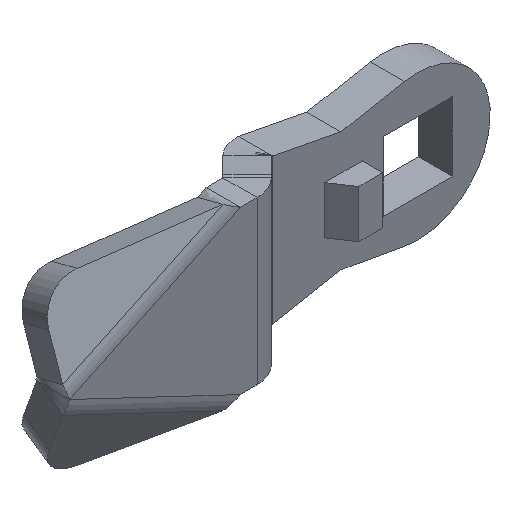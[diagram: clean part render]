
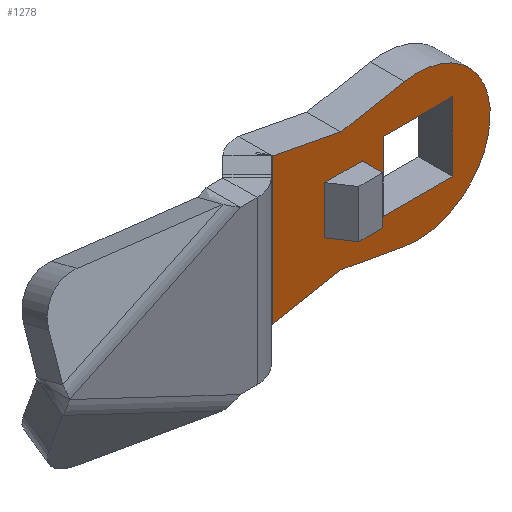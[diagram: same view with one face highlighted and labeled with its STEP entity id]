
A CAD part, isometric view. The second image highlights one B-rep face of the part: STEP entity #1278.
In plain terms, the highlighted planar face has unit normal (0, -1, 0).
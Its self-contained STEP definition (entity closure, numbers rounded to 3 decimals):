
#471=CARTESIAN_POINT('',(-17.0,-4.0,8.538));
#472=VERTEX_POINT('',#471);
#499=CARTESIAN_POINT('',(-9.0,-4.0,7.));
#500=VERTEX_POINT('',#499);
#501=CARTESIAN_POINT('',(-17.0,-4.0,8.538));
#502=DIRECTION('',(0.982,0.0,-0.189));
#503=VECTOR('',#502,8.147);
#504=LINE('',#501,#503);
#505=EDGE_CURVE('',#472,#500,#504,.T.);
#524=CARTESIAN_POINT('',(-1.524,-4.0,8.362));
#525=VERTEX_POINT('',#524);
#526=CARTESIAN_POINT('',(-9.0,-4.0,7.));
#527=DIRECTION('',(0.984,0.0,0.179));
#528=VECTOR('',#527,7.599);
#529=LINE('',#526,#528);
#530=EDGE_CURVE('',#500,#525,#529,.T.);
#548=CARTESIAN_POINT('',(-1.524,-4.0,-8.362));
#549=VERTEX_POINT('',#548);
#550=CARTESIAN_POINT('',(0.0,-4.0,0.0));
#551=DIRECTION('',(0.0,1.,0.0));
#552=DIRECTION('',(-0.179,0.0,0.984));
#553=AXIS2_PLACEMENT_3D('',#550,#551,#552);
#554=CIRCLE('',#553,8.5);
#555=EDGE_CURVE('',#525,#549,#554,.T.);
#573=CARTESIAN_POINT('',(-9.0,-4.0,-7.));
#574=VERTEX_POINT('',#573);
#575=CARTESIAN_POINT('',(-1.524,-4.0,-8.362));
#576=DIRECTION('',(-0.984,0.0,0.179));
#577=VECTOR('',#576,7.599);
#578=LINE('',#575,#577);
#579=EDGE_CURVE('',#549,#574,#578,.T.);
#595=CARTESIAN_POINT('',(-17.0,-4.0,-8.538));
#596=VERTEX_POINT('',#595);
#605=CARTESIAN_POINT('',(-9.0,-4.0,-7.));
#606=DIRECTION('',(-0.982,0.0,-0.189));
#607=VECTOR('',#606,8.147);
#608=LINE('',#605,#607);
#609=EDGE_CURVE('',#574,#596,#608,.T.);
#1187=CARTESIAN_POINT('',(-17.0,-4.0,8.538));
#1188=DIRECTION('',(0.0,0.0,-1.0));
#1189=VECTOR('',#1188,17.077);
#1190=LINE('',#1187,#1189);
#1191=EDGE_CURVE('',#472,#596,#1190,.T.);
#1197=CARTESIAN_POINT('',(0.0,-4.0,0.0));
#1198=DIRECTION('',(0.0,1.0,0.0));
#1199=DIRECTION('',(0.0,0.0,1.0));
#1200=AXIS2_PLACEMENT_3D('',#1197,#1198,#1199);
#1201=PLANE('',#1200);
#1202=ORIENTED_EDGE('',*,*,#1191,.T.);
#1203=ORIENTED_EDGE('',*,*,#609,.F.);
#1204=ORIENTED_EDGE('',*,*,#579,.F.);
#1205=ORIENTED_EDGE('',*,*,#555,.F.);
#1206=ORIENTED_EDGE('',*,*,#530,.F.);
#1207=ORIENTED_EDGE('',*,*,#505,.F.);
#1208=EDGE_LOOP('',(#1202,#1203,#1204,#1205,#1206,#1207));
#1209=FACE_OUTER_BOUND('',#1208,.T.);
#1210=CARTESIAN_POINT('',(-4.05,-4.0,-4.05));
#1211=VERTEX_POINT('',#1210);
#1212=CARTESIAN_POINT('',(4.05,-4.0,-4.05));
#1213=VERTEX_POINT('',#1212);
#1214=CARTESIAN_POINT('',(-4.05,-4.0,-4.05));
#1215=DIRECTION('',(1.0,0.0,0.0));
#1216=VECTOR('',#1215,8.1);
#1217=LINE('',#1214,#1216);
#1218=EDGE_CURVE('',#1211,#1213,#1217,.T.);
#1219=ORIENTED_EDGE('',*,*,#1218,.F.);
#1220=CARTESIAN_POINT('',(-4.05,-4.0,4.05));
#1221=VERTEX_POINT('',#1220);
#1222=CARTESIAN_POINT('',(-4.05,-4.0,4.05));
#1223=DIRECTION('',(0.0,0.0,-1.0));
#1224=VECTOR('',#1223,8.1);
#1225=LINE('',#1222,#1224);
#1226=EDGE_CURVE('',#1221,#1211,#1225,.T.);
#1227=ORIENTED_EDGE('',*,*,#1226,.F.);
#1228=CARTESIAN_POINT('',(4.05,-4.0,4.05));
#1229=VERTEX_POINT('',#1228);
#1230=CARTESIAN_POINT('',(4.05,-4.0,4.05));
#1231=DIRECTION('',(-1.0,0.0,0.0));
#1232=VECTOR('',#1231,8.1);
#1233=LINE('',#1230,#1232);
#1234=EDGE_CURVE('',#1229,#1221,#1233,.T.);
#1235=ORIENTED_EDGE('',*,*,#1234,.F.);
#1236=CARTESIAN_POINT('',(4.05,-4.0,-4.05));
#1237=DIRECTION('',(0.0,0.0,1.0));
#1238=VECTOR('',#1237,8.1);
#1239=LINE('',#1236,#1238);
#1240=EDGE_CURVE('',#1213,#1229,#1239,.T.);
#1241=ORIENTED_EDGE('',*,*,#1240,.F.);
#1242=EDGE_LOOP('',(#1219,#1227,#1235,#1241));
#1243=FACE_BOUND('',#1242,.T.);
#1244=CARTESIAN_POINT('',(-6.5,-4.0,-2.8));
#1245=VERTEX_POINT('',#1244);
#1246=CARTESIAN_POINT('',(-10.9,-4.0,-2.8));
#1247=VERTEX_POINT('',#1246);
#1248=CARTESIAN_POINT('',(-6.5,-4.0,-2.8));
#1249=DIRECTION('',(-1.0,0.0,0.0));
#1250=VECTOR('',#1249,4.4);
#1251=LINE('',#1248,#1250);
#1252=EDGE_CURVE('',#1245,#1247,#1251,.T.);
#1253=ORIENTED_EDGE('',*,*,#1252,.T.);
#1254=CARTESIAN_POINT('',(-10.9,-4.0,2.8));
#1255=VERTEX_POINT('',#1254);
#1256=CARTESIAN_POINT('',(-10.9,-4.0,-2.8));
#1257=DIRECTION('',(0.0,0.0,1.0));
#1258=VECTOR('',#1257,5.6);
#1259=LINE('',#1256,#1258);
#1260=EDGE_CURVE('',#1247,#1255,#1259,.T.);
#1261=ORIENTED_EDGE('',*,*,#1260,.T.);
#1262=CARTESIAN_POINT('',(-6.5,-4.0,2.8));
#1263=VERTEX_POINT('',#1262);
#1264=CARTESIAN_POINT('',(-10.9,-4.0,2.8));
#1265=DIRECTION('',(1.0,0.0,0.0));
#1266=VECTOR('',#1265,4.4);
#1267=LINE('',#1264,#1266);
#1268=EDGE_CURVE('',#1255,#1263,#1267,.T.);
#1269=ORIENTED_EDGE('',*,*,#1268,.T.);
#1270=CARTESIAN_POINT('',(-6.5,-4.0,2.8));
#1271=DIRECTION('',(0.0,0.0,-1.0));
#1272=VECTOR('',#1271,5.6);
#1273=LINE('',#1270,#1272);
#1274=EDGE_CURVE('',#1263,#1245,#1273,.T.);
#1275=ORIENTED_EDGE('',*,*,#1274,.T.);
#1276=EDGE_LOOP('',(#1253,#1261,#1269,#1275));
#1277=FACE_BOUND('',#1276,.T.);
#1278=ADVANCED_FACE('',(#1209,#1243,#1277),#1201,.F.);
